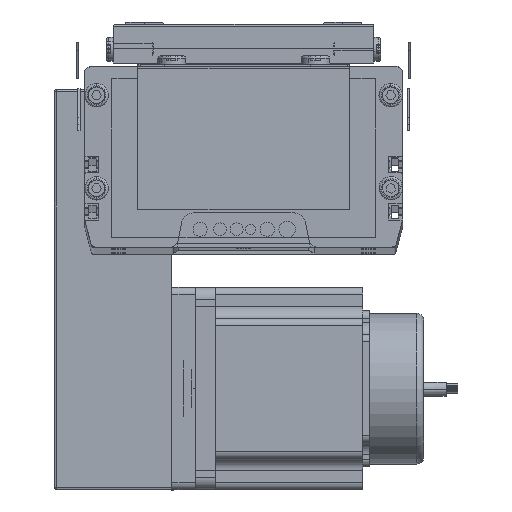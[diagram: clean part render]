
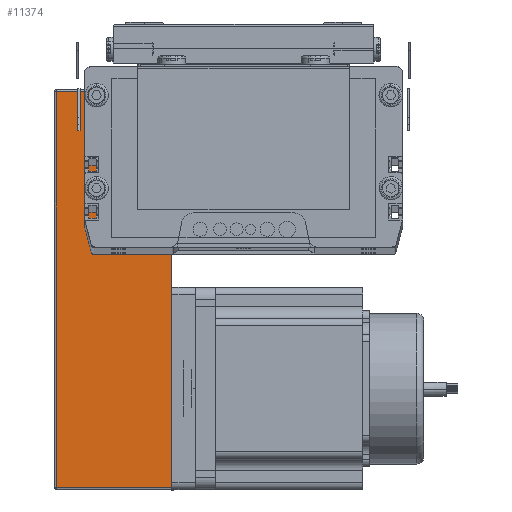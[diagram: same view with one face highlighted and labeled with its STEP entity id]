
A CAD part, top view. The second image highlights one B-rep face of the part: STEP entity #11374.
In plain terms, the highlighted planar face has unit normal (0, 0, 1) as drawn and (0, -1, 0) by its records, which use the part's own axes.
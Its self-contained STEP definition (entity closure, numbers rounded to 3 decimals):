
#11284 = VERTEX_POINT ( 'NONE', #19389 ) ;
#11329 = VERTEX_POINT ( 'NONE', #19436 ) ;
#11334 = EDGE_CURVE ( 'NONE', #11329, #11284, #19489, .T. ) ;
#11345 = EDGE_CURVE ( 'NONE', #11348, #13159, #19469, .T. ) ;
#11346 = ORIENTED_EDGE ( 'NONE', *, *, #11358, .T. ) ;
#11347 = ORIENTED_EDGE ( 'NONE', *, *, #11356, .T. ) ;
#11348 = VERTEX_POINT ( 'NONE', #19465 ) ;
#11349 = VERTEX_POINT ( 'NONE', #19468 ) ;
#11350 = ORIENTED_EDGE ( 'NONE', *, *, #11352, .T. ) ;
#11351 = EDGE_CURVE ( 'NONE', #13174, #13194, #19467, .T. ) ;
#11352 = EDGE_CURVE ( 'NONE', #13159, #13174, #19523, .T. ) ;
#11353 = ORIENTED_EDGE ( 'NONE', *, *, #11334, .T. ) ;
#11355 = ORIENTED_EDGE ( 'NONE', *, *, #11351, .T. ) ;
#11356 = EDGE_CURVE ( 'NONE', #13194, #13114, #19461, .T. ) ;
#11358 = EDGE_CURVE ( 'NONE', #13114, #11329, #19506, .T. ) ;
#11359 = ORIENTED_EDGE ( 'NONE', *, *, #11431, .T. ) ;
#11362 = ORIENTED_EDGE ( 'NONE', *, *, #11345, .T. ) ;
#11366 = EDGE_LOOP ( 'NONE', ( #11362, #11350, #11355, #11347, #11346, #11353, #11425, #11429, #11359 ) ) ;
#11374 = ADVANCED_FACE ( 'NONE', ( #19497 ), #19502, .F. ) ;
#11423 = VERTEX_POINT ( 'NONE', #19611 ) ;
#11424 = EDGE_CURVE ( 'NONE', #11284, #11349, #19552, .T. ) ;
#11425 = ORIENTED_EDGE ( 'NONE', *, *, #11424, .T. ) ;
#11426 = EDGE_CURVE ( 'NONE', #11349, #11423, #19601, .T. ) ;
#11429 = ORIENTED_EDGE ( 'NONE', *, *, #11426, .T. ) ;
#11431 = EDGE_CURVE ( 'NONE', #11423, #11348, #19602, .T. ) ;
#13114 = VERTEX_POINT ( 'NONE', #47625 ) ;
#13159 = VERTEX_POINT ( 'NONE', #47840 ) ;
#13174 = VERTEX_POINT ( 'NONE', #47805 ) ;
#13194 = VERTEX_POINT ( 'NONE', #47996 ) ;
#19389 = CARTESIAN_POINT ( 'NONE',  ( 169., 0., 0. ) ) ;
#19436 = CARTESIAN_POINT ( 'NONE',  ( 85.9, 0., 0. ) ) ;
#19461 = LINE ( 'NONE', #19512, #19511 ) ;
#19462 = DIRECTION ( 'NONE',  ( 1., 0., 0. ) ) ;
#19463 = VECTOR ( 'NONE', #19462, 1000. ) ;
#19464 = CARTESIAN_POINT ( 'NONE',  ( 0., 0., 0. ) ) ;
#19465 = CARTESIAN_POINT ( 'NONE',  ( 1., 0., 0. ) ) ;
#19466 = CARTESIAN_POINT ( 'NONE',  ( 0., 0., 0. ) ) ;
#19467 = LINE ( 'NONE', #19466, #19522 ) ;
#19468 = CARTESIAN_POINT ( 'NONE',  ( 169., 0., 49. ) ) ;
#19469 = LINE ( 'NONE', #19464, #19463 ) ;
#19478 = DIRECTION ( 'NONE',  ( 1., 0., 0. ) ) ;
#19479 = VECTOR ( 'NONE', #19478, 1000. ) ;
#19480 = CARTESIAN_POINT ( 'NONE',  ( 0., 0., 0. ) ) ;
#19489 = LINE ( 'NONE', #19480, #19479 ) ;
#19496 = AXIS2_PLACEMENT_3D ( 'NONE', #19548, #19547, #19546 ) ;
#19497 = FACE_OUTER_BOUND ( 'NONE', #11366, .T. ) ;
#19502 = PLANE ( 'NONE',  #19496 ) ;
#19503 = DIRECTION ( 'NONE',  ( 1., 0., 0. ) ) ;
#19504 = VECTOR ( 'NONE', #19503, 1000. ) ;
#19505 = CARTESIAN_POINT ( 'NONE',  ( 0., 0., 0. ) ) ;
#19506 = LINE ( 'NONE', #19505, #19504 ) ;
#19510 = DIRECTION ( 'NONE',  ( 1., 0., 0. ) ) ;
#19511 = VECTOR ( 'NONE', #19510, 1000. ) ;
#19512 = CARTESIAN_POINT ( 'NONE',  ( 0., 0., 0. ) ) ;
#19517 = DIRECTION ( 'NONE',  ( 1., 0., 0. ) ) ;
#19518 = VECTOR ( 'NONE', #19517, 1000. ) ;
#19519 = CARTESIAN_POINT ( 'NONE',  ( 0., 0., 0. ) ) ;
#19521 = DIRECTION ( 'NONE',  ( 1., 0., 0. ) ) ;
#19522 = VECTOR ( 'NONE', #19521, 1000. ) ;
#19523 = LINE ( 'NONE', #19519, #19518 ) ;
#19546 = DIRECTION ( 'NONE',  ( 0., 0., 1. ) ) ;
#19547 = DIRECTION ( 'NONE',  ( 0., 1., 0. ) ) ;
#19548 = CARTESIAN_POINT ( 'NONE',  ( 0., 0., 50. ) ) ;
#19552 = LINE ( 'NONE', #19606, #19605 ) ;
#19589 = VECTOR ( 'NONE', #19596, 1000. ) ;
#19596 = DIRECTION ( 'NONE',  ( 0., 0., -1. ) ) ;
#19597 = CARTESIAN_POINT ( 'NONE',  ( 1., 0., 50. ) ) ;
#19598 = DIRECTION ( 'NONE',  ( -1., 0., 0. ) ) ;
#19599 = VECTOR ( 'NONE', #19598, 1000. ) ;
#19600 = CARTESIAN_POINT ( 'NONE',  ( 0., 0., 49. ) ) ;
#19601 = LINE ( 'NONE', #19600, #19599 ) ;
#19602 = LINE ( 'NONE', #19597, #19589 ) ;
#19604 = DIRECTION ( 'NONE',  ( 0., 0., 1. ) ) ;
#19605 = VECTOR ( 'NONE', #19604, 1000. ) ;
#19606 = CARTESIAN_POINT ( 'NONE',  ( 169., 0., 50. ) ) ;
#19611 = CARTESIAN_POINT ( 'NONE',  ( 1., 0., 49. ) ) ;
#47625 = CARTESIAN_POINT ( 'NONE',  ( 80.482, 0., 0. ) ) ;
#47805 = CARTESIAN_POINT ( 'NONE',  ( 10.902, 0., 0. ) ) ;
#47840 = CARTESIAN_POINT ( 'NONE',  ( 5.418, 0., 0. ) ) ;
#47996 = CARTESIAN_POINT ( 'NONE',  ( 74.998, 0., 0. ) ) ;
